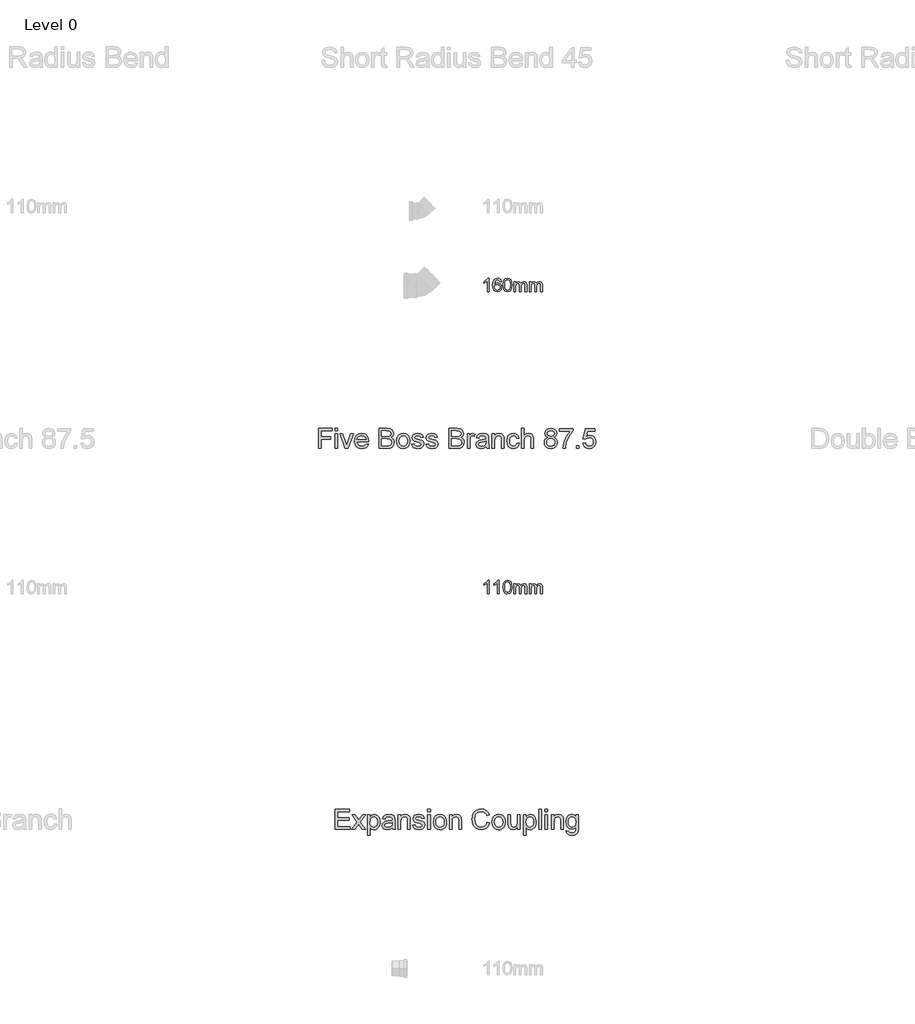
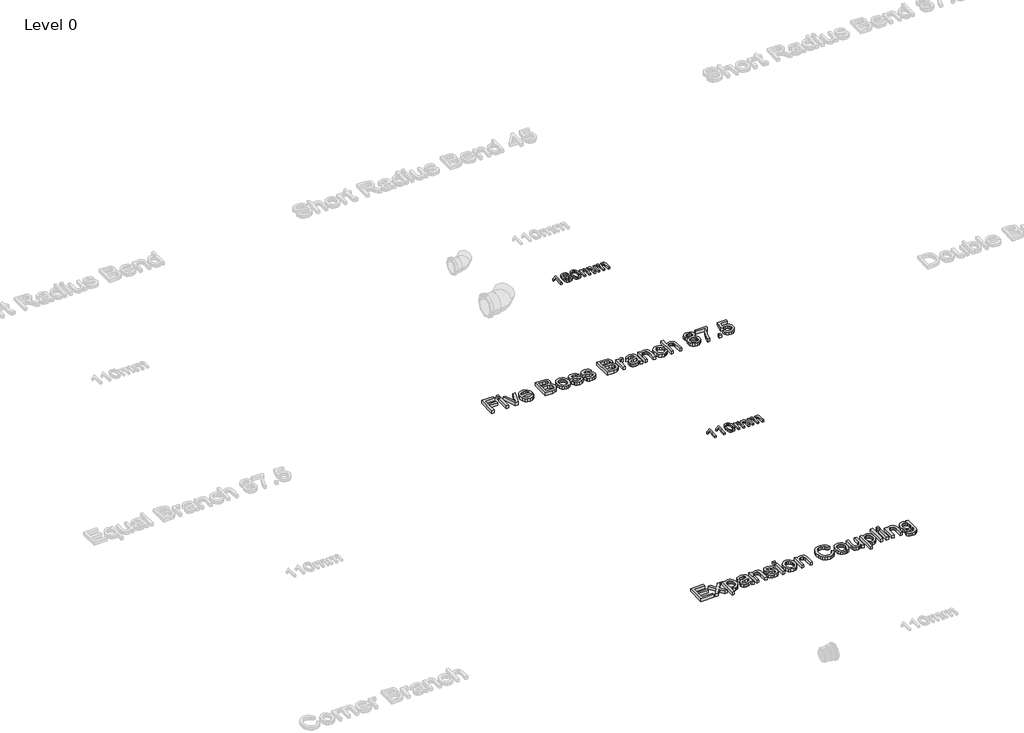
# One storey, part 9 of 15: 4 proxies.
"""IFC4 building model written with IfcOpenShell, lengths in millimetres."""

from ifc_helpers import new_model, si_unit, origin, origin_with_axes, place, context, project, spatial, polyline, outline, extrude, element, save

model = new_model("IFC4")

# Units and contexts
model_context = context("Model", 3, world=origin())
ifc_project = project(units=[si_unit("LENGTHUNIT", "METRE", prefix="MILLI")], contexts=[model_context])

# Site, building, storey
site = spatial("IfcSite", under=ifc_project)
building = spatial("IfcBuilding", under=site)
storey = spatial("IfcBuildingStorey", under=building, Name="Level 0", Elevation=0.0)

# Proxies
placement = place(None, origin())
element("IfcBuildingElementProxy", 1, Name="100mm Arial", ObjectType="100mm Arial", at=placement, inside=storey, context=model_context, shape_type="SweptSolid", body=[
    extrude(outline(polyline([(-6791.7293188, 5437.7167304), (-6804.0370111, 5437.7167304), (-6804.0370111, 5514.4474996), (-6815.6956649, 5506.1422111), (-6828.6523957, 5499.9282688), (-6828.6523957, 5511.5628842), (-6810.6115303, 5523.0773073), (-6799.6620111, 5536.1782688), (-6791.7293188, 5536.1782688), (-6791.7293188, 5437.7167304)])), origin_with_axes(), (0.0, 0.0, 1.0), 15.0),
    extrude(outline(polyline([(-6716.3447034, 5437.7167304), (-6728.6523957, 5437.7167304), (-6728.6523957, 5514.4474996), (-6740.3110495, 5506.1422111), (-6753.2677803, 5499.9282688), (-6753.2677803, 5511.5628842), (-6735.2269149, 5523.0773073), (-6724.2773957, 5536.1782688), (-6716.3447034, 5536.1782688), (-6716.3447034, 5437.7167304)])), origin_with_axes(), (0.0, 0.0, 1.0), 15.0),
    extrude(outline(polyline([(-6687.1139341, 5486.1542304), (-6683.4961457, 5514.4835573), (-6672.7509534, 5530.8176919), (-6654.8062418, 5536.1782688), (-6640.4312418, 5533.0051919), (-6630.5033572, 5523.8585573), (-6624.7341264, 5509.2912496), (-6622.4985495, 5486.1542304), (-6626.0802803, 5457.9450958), (-6636.7894149, 5441.5749035), (-6654.8062418, 5436.1782688), (-6667.5947034, 5438.5220188), (-6677.3062418, 5445.5532688), (-6684.6620111, 5462.2059131), (-6687.1139341, 5486.1542304)]), holes=[polyline([(-6674.8062418, 5486.1782688), (-6673.3639341, 5466.8182929), (-6669.0370111, 5455.613365), (-6662.5947034, 5450.2678121), (-6654.8062418, 5448.4859611), (-6647.0177803, 5450.2738217), (-6640.5754726, 5455.6374035), (-6636.2485495, 5466.848341), (-6634.8062418, 5486.1782688), (-6636.2004726, 5505.1025477), (-6640.3831649, 5516.394615), (-6646.8134534, 5522.0015861), (-6654.9504726, 5523.8705765), (-6662.6547995, 5522.2239419), (-6668.8447034, 5517.2840381), (-6673.3158572, 5505.2888458), (-6674.8062418, 5486.1782688)])]), origin_with_axes(), (0.0, 0.0, 1.0), 15.0),
    extrude(outline(polyline([(-6608.6523957, 5437.7167304), (-6608.6523957, 5510.0244227), (-6596.3447034, 5510.0244227), (-6596.3447034, 5498.1253842), (-6587.8831649, 5507.8729804), (-6575.8398957, 5511.5628842), (-6563.5081649, 5507.800865), (-6556.7293188, 5497.2599996), (-6547.1259534, 5507.9871631), (-6534.9985495, 5511.5628842), (-6525.7467466, 5510.0755044), (-6518.9047995, 5505.613365), (-6514.6770351, 5498.0562736), (-6513.2677803, 5487.2840381), (-6513.2677803, 5437.7167304), (-6525.5754726, 5437.7167304), (-6525.5754726, 5481.9955765), (-6526.7172995, 5492.2720188), (-6530.8519149, 5497.332115), (-6537.8831649, 5499.2551919), (-6549.9865303, 5494.3273073), (-6554.8062418, 5478.5340381), (-6554.8062418, 5437.7167304), (-6567.1139341, 5437.7167304), (-6567.1139341, 5483.3657688), (-6569.9624918, 5495.2888458), (-6579.3014341, 5499.2551919), (-6588.4120111, 5496.6109611), (-6594.4697034, 5488.8705765), (-6596.3447034, 5474.1830765), (-6596.3447034, 5437.7167304), (-6608.6523957, 5437.7167304)])), origin_with_axes(), (0.0, 0.0, 1.0), 15.0),
    extrude(outline(polyline([(-6494.8062418, 5437.7167304), (-6494.8062418, 5510.0244227), (-6482.4985495, 5510.0244227), (-6482.4985495, 5498.1253842), (-6474.0370111, 5507.8729804), (-6461.9937418, 5511.5628842), (-6449.6620111, 5507.800865), (-6442.8831649, 5497.2599996), (-6433.2797995, 5507.9871631), (-6421.1523957, 5511.5628842), (-6411.9005928, 5510.0755044), (-6405.0586457, 5505.613365), (-6400.8308813, 5498.0562736), (-6399.4216264, 5487.2840381), (-6399.4216264, 5437.7167304), (-6411.7293188, 5437.7167304), (-6411.7293188, 5481.9955765), (-6412.8711457, 5492.2720188), (-6417.0057611, 5497.332115), (-6424.0370111, 5499.2551919), (-6436.1403764, 5494.3273073), (-6440.960088, 5478.5340381), (-6440.960088, 5437.7167304), (-6453.2677803, 5437.7167304), (-6453.2677803, 5483.3657688), (-6456.116338, 5495.2888458), (-6465.4552803, 5499.2551919), (-6474.5658572, 5496.6109611), (-6480.6235495, 5488.8705765), (-6482.4985495, 5474.1830765), (-6482.4985495, 5437.7167304), (-6494.8062418, 5437.7167304)])), origin_with_axes(), (0.0, 0.0, 1.0), 15.0),
])
element("IfcBuildingElementProxy", 2, Name="100mm Arial", ObjectType="100mm Arial", at=placement, inside=storey, context=model_context, shape_type="SweptSolid", body=[
    extrude(outline(polyline([(-6791.7293188, 7657.7167304), (-6804.0370111, 7657.7167304), (-6804.0370111, 7734.4474996), (-6815.6956649, 7726.1422111), (-6828.6523957, 7719.9282688), (-6828.6523957, 7731.5628842), (-6810.6115303, 7743.0773073), (-6799.6620111, 7756.1782688), (-6791.7293188, 7756.1782688), (-6791.7293188, 7657.7167304)])), origin_with_axes(), (0.0, 0.0, 1.0), 15.0),
    extrude(outline(polyline([(-6699.4216264, 7730.0244227), (-6711.7293188, 7728.4859611), (-6716.3927803, 7738.7503842), (-6728.7245111, 7743.8705765), (-6739.8302803, 7740.8898073), (-6748.2317226, 7729.6999035), (-6751.7293188, 7707.7648073), (-6740.8759534, 7717.5845188), (-6727.4264341, 7720.7936535), (-6716.0562418, 7718.6001438), (-6706.5129726, 7712.019615), (-6700.0406168, 7701.9655285), (-6697.8831649, 7689.3513458), (-6701.9456649, 7672.3681727), (-6713.1235495, 7660.3489419), (-6729.2533572, 7656.1782688), (-6743.2166986, 7658.9426919), (-6754.3374918, 7667.2359611), (-6761.6121313, 7681.8753842), (-6764.0370111, 7703.6782688), (-6761.3447034, 7728.19149), (-6753.2677803, 7744.9523073), (-6742.2401361, 7753.3717785), (-6727.9552803, 7756.1782688), (-6717.1560014, 7754.44149), (-6708.5081649, 7749.2311535), (-6702.4504726, 7740.9559131), (-6699.4216264, 7730.0244227)]), holes=[polyline([(-6751.7293188, 7689.5436535), (-6748.8807611, 7678.8825958), (-6741.3086457, 7671.1422111), (-6730.2148957, 7668.4859611), (-6722.0929005, 7669.8621631), (-6715.7076841, 7673.9907688), (-6711.5700639, 7680.4811535), (-6710.1908572, 7688.9426919), (-6711.5520351, 7697.0646871), (-6715.6355688, 7703.2575958), (-6730.7197034, 7708.4859611), (-6745.6115303, 7703.2575958), (-6750.1998716, 7697.2149275), (-6751.7293188, 7689.5436535)])]), origin_with_axes(), (0.0, 0.0, 1.0), 15.0),
    extrude(outline(polyline([(-6687.1139341, 7706.1542304), (-6683.4961457, 7734.4835573), (-6672.7509534, 7750.8176919), (-6654.8062418, 7756.1782688), (-6640.4312418, 7753.0051919), (-6630.5033572, 7743.8585573), (-6624.7341264, 7729.2912496), (-6622.4985495, 7706.1542304), (-6626.0802803, 7677.9450958), (-6636.7894149, 7661.5749035), (-6654.8062418, 7656.1782688), (-6667.5947034, 7658.5220188), (-6677.3062418, 7665.5532688), (-6684.6620111, 7682.2059131), (-6687.1139341, 7706.1542304)]), holes=[polyline([(-6674.8062418, 7706.1782688), (-6673.3639341, 7686.8182929), (-6669.0370111, 7675.613365), (-6662.5947034, 7670.2678121), (-6654.8062418, 7668.4859611), (-6647.0177803, 7670.2738217), (-6640.5754726, 7675.6374035), (-6636.2485495, 7686.848341), (-6634.8062418, 7706.1782688), (-6636.2004726, 7725.1025477), (-6640.3831649, 7736.394615), (-6646.8134534, 7742.0015861), (-6654.9504726, 7743.8705765), (-6662.6547995, 7742.2239419), (-6668.8447034, 7737.2840381), (-6673.3158572, 7725.2888458), (-6674.8062418, 7706.1782688)])]), origin_with_axes(), (0.0, 0.0, 1.0), 15.0),
    extrude(outline(polyline([(-6608.6523957, 7657.7167304), (-6608.6523957, 7730.0244227), (-6596.3447034, 7730.0244227), (-6596.3447034, 7718.1253842), (-6587.8831649, 7727.8729804), (-6575.8398957, 7731.5628842), (-6563.5081649, 7727.800865), (-6556.7293188, 7717.2599996), (-6547.1259534, 7727.9871631), (-6534.9985495, 7731.5628842), (-6525.7467466, 7730.0755044), (-6518.9047995, 7725.613365), (-6514.6770351, 7718.0562736), (-6513.2677803, 7707.2840381), (-6513.2677803, 7657.7167304), (-6525.5754726, 7657.7167304), (-6525.5754726, 7701.9955765), (-6526.7172995, 7712.2720188), (-6530.8519149, 7717.332115), (-6537.8831649, 7719.2551919), (-6549.9865303, 7714.3273073), (-6554.8062418, 7698.5340381), (-6554.8062418, 7657.7167304), (-6567.1139341, 7657.7167304), (-6567.1139341, 7703.3657688), (-6569.9624918, 7715.2888458), (-6579.3014341, 7719.2551919), (-6588.4120111, 7716.6109611), (-6594.4697034, 7708.8705765), (-6596.3447034, 7694.1830765), (-6596.3447034, 7657.7167304), (-6608.6523957, 7657.7167304)])), origin_with_axes(), (0.0, 0.0, 1.0), 15.0),
    extrude(outline(polyline([(-6494.8062418, 7657.7167304), (-6494.8062418, 7730.0244227), (-6482.4985495, 7730.0244227), (-6482.4985495, 7718.1253842), (-6474.0370111, 7727.8729804), (-6461.9937418, 7731.5628842), (-6449.6620111, 7727.800865), (-6442.8831649, 7717.2599996), (-6433.2797995, 7727.9871631), (-6421.1523957, 7731.5628842), (-6411.9005928, 7730.0755044), (-6405.0586457, 7725.613365), (-6400.8308813, 7718.0562736), (-6399.4216264, 7707.2840381), (-6399.4216264, 7657.7167304), (-6411.7293188, 7657.7167304), (-6411.7293188, 7701.9955765), (-6412.8711457, 7712.2720188), (-6417.0057611, 7717.332115), (-6424.0370111, 7719.2551919), (-6436.1403764, 7714.3273073), (-6440.960088, 7698.5340381), (-6440.960088, 7657.7167304), (-6453.2677803, 7657.7167304), (-6453.2677803, 7703.3657688), (-6456.116338, 7715.2888458), (-6465.4552803, 7719.2551919), (-6474.5658572, 7716.6109611), (-6480.6235495, 7708.8705765), (-6482.4985495, 7694.1830765), (-6482.4985495, 7657.7167304), (-6494.8062418, 7657.7167304)])), origin_with_axes(), (0.0, 0.0, 1.0), 15.0),
])
element("IfcBuildingElementProxy", 3, Name="150mm Arial", ObjectType="150mm Arial", at=placement, inside=storey, context=model_context, shape_type="SweptSolid", body=[
    extrude(outline(polyline([(-8044.4510666, 6505.2145219), (-8044.4510666, 6652.9068296), (-7945.2202973, 6652.9068296), (-7945.2202973, 6634.4452911), (-8025.9895281, 6634.4452911), (-8025.9895281, 6590.5991373), (-7956.7587589, 6590.5991373), (-7956.7587589, 6572.1375988), (-8025.9895281, 6572.1375988), (-8025.9895281, 6505.2145219), (-8044.4510666, 6505.2145219)])), origin_with_axes(), (0.0, 0.0, 1.0), 25.0),
    extrude(outline(polyline([(-7922.1433743, 6505.2145219), (-7922.1433743, 6613.6760604), (-7903.6818358, 6613.6760604), (-7903.6818358, 6505.2145219), (-7922.1433743, 6505.2145219)])), origin_with_axes(), (0.0, 0.0, 1.0), 25.0),
    extrude(outline(polyline([(-7922.1433743, 6634.4452911), (-7922.1433743, 6652.9068296), (-7903.6818358, 6652.9068296), (-7903.6818358, 6634.4452911), (-7922.1433743, 6634.4452911)])), origin_with_axes(), (0.0, 0.0, 1.0), 25.0),
    extrude(outline(polyline([(-7849.3789512, 6505.2145219), (-7887.5279897, 6613.6760604), (-7867.9847204, 6613.6760604), (-7844.8717397, 6548.7000988), (-7837.912605, 6526.8491373), (-7831.0977012, 6547.4741373), (-7807.8404897, 6613.6760604), (-7788.2972204, 6613.6760604), (-7825.9775089, 6505.2145219), (-7849.3789512, 6505.2145219)])), origin_with_axes(), (0.0, 0.0, 1.0), 25.0),
    extrude(outline(polyline([(-7696.2058743, 6537.5222142), (-7678.1049127, 6535.2145219), (-7684.6268478, 6521.5756998), (-7695.0339993, 6511.3803873), (-7709.0919921, 6505.025219), (-7726.5664512, 6502.9068296), (-7748.2281098, 6506.5621782), (-7764.8957781, 6517.5282238), (-7775.5237829, 6535.0928272), (-7779.0664512, 6558.5438488), (-7775.4877252, 6582.7836325), (-7764.7515473, 6600.9116373), (-7748.3092397, 6612.2157238), (-7727.6121243, 6615.9837527), (-7707.5595401, 6612.2247383), (-7691.5364031, 6600.947695), (-7681.030093, 6582.8557479), (-7677.5279897, 6558.6520219), (-7677.6361627, 6553.6760604), (-7760.6049127, 6553.6760604), (-7757.4092997, 6539.8569498), (-7749.9859223, 6529.697695), (-7739.2722805, 6523.4506998), (-7726.2058743, 6521.3683681), (-7708.1049127, 6525.2265411), (-7696.2058743, 6537.5222142)]), holes=[polyline([(-7760.6049127, 6572.1375988), (-7695.9895281, 6572.1375988), (-7698.4865233, 6581.8912046), (-7703.381355, 6588.8683681), (-7714.1445762, 6595.3587527), (-7727.6842397, 6597.5222142), (-7740.1286507, 6595.7959522), (-7750.4186147, 6590.6171661), (-7757.5715594, 6582.5447503), (-7760.6049127, 6572.1375988)])]), origin_with_axes(), (0.0, 0.0, 1.0), 25.0),
    extrude(outline(polyline([(-7599.0664512, 6505.2145219), (-7599.0664512, 6652.9068296), (-7542.7082781, 6652.9068296), (-7515.1061147, 6648.5618777), (-7505.8302733, 6643.049558), (-7498.8080377, 6635.2025027), (-7492.912605, 6616.3082719), (-7497.8705377, 6599.0546661), (-7512.8525089, 6585.9837527), (-7502.3912709, 6580.5210123), (-7494.6614031, 6572.2097142), (-7489.8882661, 6561.5997383), (-7488.2972204, 6549.2409642), (-7492.6421723, 6529.3912046), (-7503.4053935, 6515.2565892), (-7519.4690954, 6507.7565892), (-7543.1409704, 6505.2145219), (-7599.0664512, 6505.2145219)]), holes=[polyline([(-7580.6049127, 6523.6760604), (-7542.7443358, 6523.6760604), (-7529.0424127, 6524.3972142), (-7517.4498647, 6528.4176469), (-7509.7695762, 6536.6207719), (-7506.7587589, 6549.0606758), (-7510.2924127, 6563.4116373), (-7521.74073, 6571.9753392), (-7544.5472204, 6574.4452911), (-7580.6049127, 6574.4452911), (-7580.6049127, 6523.6760604)]), polyline([(-7580.6049127, 6592.9068296), (-7546.8909704, 6592.9068296), (-7527.2034704, 6594.4933681), (-7515.3585185, 6601.3263008), (-7511.3741435, 6613.3515411), (-7515.0880858, 6625.3948104), (-7525.725105, 6632.5162046), (-7549.4510666, 6634.4452911), (-7580.6049127, 6634.4452911), (-7580.6049127, 6592.9068296)])]), origin_with_axes(), (0.0, 0.0, 1.0), 25.0),
    extrude(outline(polyline([(-7469.835682, 6559.4452911), (-7465.8422925, 6585.5961325), (-7453.8621243, 6603.9765411), (-7439.0604416, 6612.9819498), (-7421.3380858, 6615.9837527), (-7401.9435546, 6612.3284041), (-7386.4522685, 6601.3623585), (-7376.2975209, 6583.9510003), (-7372.912605, 6560.9597142), (-7374.4089993, 6542.3088729), (-7378.898182, 6528.1111565), (-7386.249444, 6517.4786445), (-7396.3320762, 6509.5234161), (-7408.3077372, 6504.5609762), (-7421.3380858, 6502.9068296), (-7440.9669921, 6506.5486565), (-7456.4402493, 6517.4741373), (-7466.4868238, 6535.2505796), (-7469.835682, 6559.4452911)]), holes=[polyline([(-7451.3741435, 6559.4813488), (-7449.2377252, 6542.7731157), (-7442.8284704, 6530.86957), (-7433.1830377, 6523.7436686), (-7421.3380858, 6521.3683681), (-7409.5472204, 6523.7571902), (-7399.9198166, 6530.9236565), (-7393.5105618, 6542.9849546), (-7391.3741435, 6560.0582719), (-7393.5240834, 6576.2797262), (-7399.9739031, 6588.0210123), (-7409.6148286, 6595.1469137), (-7421.3380858, 6597.5222142), (-7433.1830377, 6595.1559282), (-7442.8284704, 6588.05707), (-7449.2377252, 6576.1805676), (-7451.3741435, 6559.4813488)])]), origin_with_axes(), (0.0, 0.0, 1.0), 25.0),
    extrude(outline(polyline([(-7359.0664512, 6537.5222142), (-7340.6049127, 6539.8299065), (-7337.6932541, 6531.9332719), (-7332.0592397, 6526.1279835), (-7312.4799127, 6521.3683681), (-7293.6577973, 6525.7313488), (-7287.5279897, 6535.9717335), (-7293.693855, 6544.2650027), (-7312.6962589, 6549.5294258), (-7340.4967397, 6558.5618777), (-7352.6301531, 6569.1087527), (-7356.7587589, 6584.0005796), (-7353.4414512, 6597.7565892), (-7344.3909704, 6608.2674065), (-7332.6541916, 6613.7301469), (-7316.7707781, 6615.9837527), (-7294.3068358, 6612.3599546), (-7280.0279897, 6602.5522623), (-7273.6818358, 6585.9837527), (-7292.1433743, 6583.6760604), (-7299.08448, 6593.8623585), (-7315.3284704, 6597.5222142), (-7332.9967397, 6594.0246181), (-7338.2972204, 6585.8755796), (-7336.0977012, 6580.5029835), (-7329.210682, 6576.4284642), (-7313.3092397, 6572.4981758), (-7286.2118839, 6563.8082719), (-7273.6277493, 6553.9645219), (-7269.0664512, 6537.9188488), (-7274.4210185, 6520.2505796), (-7289.8717397, 6507.43207), (-7312.7323166, 6502.9068296), (-7331.3471002, 6505.08832), (-7344.9318358, 6511.6327911), (-7354.0003454, 6522.4681277), (-7359.0664512, 6537.5222142)])), origin_with_axes(), (0.0, 0.0, 1.0), 25.0),
    extrude(outline(polyline([(-7255.2202973, 6537.5222142), (-7236.7587589, 6539.8299065), (-7233.8471002, 6531.9332719), (-7228.2130858, 6526.1279835), (-7208.6337589, 6521.3683681), (-7189.8116435, 6525.7313488), (-7183.6818358, 6535.9717335), (-7189.8477012, 6544.2650027), (-7208.850105, 6549.5294258), (-7236.6505858, 6558.5618777), (-7248.7839993, 6569.1087527), (-7252.912605, 6584.0005796), (-7249.5952973, 6597.7565892), (-7240.5448166, 6608.2674065), (-7228.8080377, 6613.7301469), (-7212.9246243, 6615.9837527), (-7190.460682, 6612.3599546), (-7176.1818358, 6602.5522623), (-7169.835682, 6585.9837527), (-7188.2972204, 6583.6760604), (-7195.2383262, 6593.8623585), (-7211.4823166, 6597.5222142), (-7229.1505858, 6594.0246181), (-7234.4510666, 6585.8755796), (-7232.2515473, 6580.5029835), (-7225.3645281, 6576.4284642), (-7209.4630858, 6572.4981758), (-7182.36573, 6563.8082719), (-7169.7815954, 6553.9645219), (-7165.2202973, 6537.9188488), (-7170.5748647, 6520.2505796), (-7186.0255858, 6507.43207), (-7208.8861627, 6502.9068296), (-7227.5009464, 6505.08832), (-7241.085682, 6511.6327911), (-7250.1541916, 6522.4681277), (-7255.2202973, 6537.5222142)])), origin_with_axes(), (0.0, 0.0, 1.0), 25.0),
    extrude(outline(polyline([(-7084.4510666, 6505.2145219), (-7084.4510666, 6652.9068296), (-7028.0928935, 6652.9068296), (-7000.49073, 6648.5618777), (-6991.2148887, 6643.049558), (-6984.1926531, 6635.2025027), (-6978.2972204, 6616.3082719), (-6983.2551531, 6599.0546661), (-6998.2371243, 6585.9837527), (-6987.7758863, 6580.5210123), (-6980.0460185, 6572.2097142), (-6975.2728815, 6561.5997383), (-6973.6818358, 6549.2409642), (-6978.0267877, 6529.3912046), (-6988.7900089, 6515.2565892), (-7004.8537108, 6507.7565892), (-7028.5255858, 6505.2145219), (-7084.4510666, 6505.2145219)]), holes=[polyline([(-7065.9895281, 6523.6760604), (-7028.1289512, 6523.6760604), (-7014.4270281, 6524.3972142), (-7002.83448, 6528.4176469), (-6995.1541916, 6536.6207719), (-6992.1433743, 6549.0606758), (-6995.6770281, 6563.4116373), (-7007.1253454, 6571.9753392), (-7029.9318358, 6574.4452911), (-7065.9895281, 6574.4452911), (-7065.9895281, 6523.6760604)]), polyline([(-7065.9895281, 6592.9068296), (-7032.2755858, 6592.9068296), (-7012.5880858, 6594.4933681), (-7000.7431339, 6601.3263008), (-6996.7587589, 6613.3515411), (-7000.4727012, 6625.3948104), (-7011.1097204, 6632.5162046), (-7034.835682, 6634.4452911), (-7065.9895281, 6634.4452911), (-7065.9895281, 6592.9068296)])]), origin_with_axes(), (0.0, 0.0, 1.0), 25.0),
    extrude(outline(polyline([(-6950.6049127, 6505.2145219), (-6950.6049127, 6613.6760604), (-6934.4510666, 6613.6760604), (-6934.4510666, 6597.6303873), (-6922.9847204, 6612.4140411), (-6911.4462589, 6615.9837527), (-6892.912605, 6610.2866373), (-6899.0784704, 6593.7361565), (-6912.0592397, 6597.5222142), (-6922.4979416, 6593.8803873), (-6929.1505858, 6583.7842335), (-6932.1433743, 6562.2217335), (-6932.1433743, 6505.2145219), (-6950.6049127, 6505.2145219)])), origin_with_axes(), (0.0, 0.0, 1.0), 25.0),
    extrude(outline(polyline([(-6812.1433743, 6519.0606758), (-6830.0460185, 6506.5486565), (-6849.8236627, 6502.9068296), (-6865.2518478, 6505.0973344), (-6876.632557, 6511.6688488), (-6883.6502853, 6521.6478152), (-6885.9895281, 6534.0606758), (-6882.4558743, 6548.6640411), (-6873.1710185, 6559.2650027), (-6860.2443358, 6565.322695), (-6844.2707781, 6568.0991373), (-6812.2515473, 6574.4452911), (-6812.1433743, 6578.5558681), (-6813.4144079, 6586.7950508), (-6817.2275089, 6592.1856758), (-6825.7551531, 6596.1880796), (-6837.6361627, 6597.5222142), (-6856.3140473, 6593.9705315), (-6865.2202973, 6581.3683681), (-6883.6818358, 6583.6760604), (-6875.695057, 6601.7049065), (-6859.6133262, 6612.2698104), (-6835.256355, 6615.9837527), (-6812.882557, 6612.7025027), (-6800.2443358, 6604.46332), (-6794.5832781, 6591.9332719), (-6793.6818358, 6575.7794258), (-6793.6818358, 6552.8106758), (-6792.7443358, 6520.7373585), (-6789.0664512, 6505.2145219), (-6807.5279897, 6505.2145219), (-6812.1433743, 6519.0606758)]), holes=[polyline([(-6812.1433743, 6555.9837527), (-6841.9270281, 6550.322695), (-6857.8104416, 6547.3299065), (-6865.0039512, 6542.4621181), (-6867.5279897, 6535.3587527), (-6862.0291916, 6525.3707719), (-6845.8933743, 6521.3683681), (-6827.2154897, 6525.7854354), (-6815.1722204, 6536.4765411), (-6812.2515473, 6550.7553873), (-6812.1433743, 6555.9837527)])]), origin_with_axes(), (0.0, 0.0, 1.0), 25.0),
    extrude(outline(polyline([(-6768.2972204, 6505.2145219), (-6768.2972204, 6613.6760604), (-6749.835682, 6613.6760604), (-6749.835682, 6598.5318296), (-6735.7190954, 6611.6207719), (-6716.4462589, 6615.9837527), (-6699.0123647, 6612.4681277), (-6687.1133262, 6603.2373585), (-6681.5784704, 6589.6616373), (-6680.6049127, 6571.8130796), (-6680.6049127, 6505.2145219), (-6699.0664512, 6505.2145219), (-6699.0664512, 6569.3250988), (-6701.193855, 6585.6592335), (-6708.7118839, 6594.2950508), (-6721.3861627, 6597.5222142), (-6732.1989632, 6595.7103152), (-6741.4162108, 6590.2746181), (-6747.7308142, 6579.7728152), (-6749.835682, 6562.7625988), (-6749.835682, 6505.2145219), (-6768.2972204, 6505.2145219)])), origin_with_axes(), (0.0, 0.0, 1.0), 25.0),
    extrude(outline(polyline([(-6585.9895281, 6544.4452911), (-6567.5279897, 6542.1375988), (-6572.6752252, 6525.7178272), (-6582.3477012, 6513.3094738), (-6595.6349608, 6505.5074907), (-6611.6265473, 6502.9068296), (-6631.264468, 6506.5351349), (-6646.6205377, 6517.4200508), (-6656.5318959, 6535.0838128), (-6659.835682, 6559.0486565), (-6654.1926531, 6589.7157238), (-6647.0712589, 6601.2136205), (-6636.9931339, 6609.4212527), (-6624.936343, 6614.3431277), (-6611.8789512, 6615.9837527), (-6596.2794921, 6613.7301469), (-6583.8080377, 6606.9693296), (-6574.8612228, 6596.0618777), (-6569.835682, 6581.3683681), (-6588.2972204, 6579.0606758), (-6596.8609223, 6592.8888008), (-6611.7347204, 6597.5222142), (-6623.6653094, 6595.2415652), (-6633.1349608, 6588.3996181), (-6639.3143478, 6576.6267815), (-6641.3741435, 6559.5534642), (-6639.3594199, 6542.2502791), (-6633.3152493, 6530.4368777), (-6624.0168719, 6523.6354955), (-6612.2395281, 6521.3683681), (-6602.6797324, 6522.7836325), (-6594.8416916, 6527.0294258), (-6589.140069, 6534.213921), (-6585.9895281, 6544.4452911)])), origin_with_axes(), (0.0, 0.0, 1.0), 25.0),
    extrude(outline(polyline([(-6551.3741435, 6505.2145219), (-6551.3741435, 6652.9068296), (-6532.912605, 6652.9068296), (-6532.912605, 6598.603945), (-6518.5165714, 6611.6388008), (-6500.7852012, 6615.9837527), (-6480.0520281, 6611.2421661), (-6467.4678935, 6598.135195), (-6463.6818358, 6573.8683681), (-6463.6818358, 6505.2145219), (-6482.1433743, 6505.2145219), (-6482.1433743, 6571.9573104), (-6483.6127252, 6583.5138008), (-6488.0207781, 6591.4284642), (-6495.1241435, 6595.9987767), (-6504.679432, 6597.5222142), (-6519.8056339, 6593.4116373), (-6529.9017877, 6582.2698104), (-6532.912605, 6562.8347142), (-6532.912605, 6505.2145219), (-6551.3741435, 6505.2145219)])), origin_with_axes(), (0.0, 0.0, 1.0), 25.0),
    extrude(outline(polyline([(-6358.3212589, 6586.5606758), (-6375.1421723, 6598.0270219), (-6380.6049127, 6615.8755796), (-6377.6301531, 6630.307671), (-6368.7058743, 6642.2337527), (-6354.8326772, 6650.2385604), (-6337.0111627, 6652.9068296), (-6319.0814752, 6650.1754594), (-6305.0279897, 6641.9813488), (-6295.9414512, 6629.8659642), (-6292.912605, 6615.3707719), (-6298.30323, 6597.9729354), (-6314.6553935, 6586.5606758), (-6303.2927132, 6580.705808), (-6295.02198, 6572.0835123), (-6289.9784103, 6561.1084522), (-6288.2972204, 6548.1952911), (-6291.632557, 6530.5450508), (-6301.6385666, 6515.9597142), (-6317.0892877, 6506.1700508), (-6336.7587589, 6502.9068296), (-6356.42823, 6506.1835724), (-6371.8789512, 6516.0138008), (-6381.8849608, 6530.7388609), (-6385.2202973, 6548.7000988), (-6383.4714993, 6562.1135604), (-6378.225105, 6573.1472142), (-6369.7515473, 6581.4224546), (-6358.3212589, 6586.5606758)]), holes=[polyline([(-6366.7587589, 6549.3491373), (-6363.6758262, 6535.4488969), (-6352.7683743, 6525.0462527), (-6336.6145281, 6521.3683681), (-6324.0484223, 6523.3019618), (-6314.6193358, 6529.1027431), (-6308.7239031, 6537.8872984), (-6306.7587589, 6548.7722142), (-6308.7870041, 6559.8419258), (-6314.8717397, 6568.8202911), (-6324.5171723, 6574.7698104), (-6337.2275089, 6576.7529835), (-6349.6178334, 6574.7968536), (-6358.9522685, 6568.9284642), (-6364.8071363, 6560.1213729), (-6366.7587589, 6549.3491373)]), polyline([(-6362.1433743, 6615.3347142), (-6360.5072565, 6607.27582), (-6355.5989031, 6600.8395219), (-6347.5625449, 6596.6207719), (-6336.5424127, 6595.2145219), (-6325.7791916, 6596.6117575), (-6317.8645281, 6600.8034642), (-6312.9967397, 6607.0234161), (-6311.3741435, 6614.5053873), (-6313.0508262, 6622.2713128), (-6318.0808743, 6628.6940892), (-6326.1037108, 6633.0074907), (-6336.7587589, 6634.4452911), (-6347.4814151, 6633.0390411), (-6355.49073, 6628.8202911), (-6360.4802132, 6622.6363969), (-6362.1433743, 6615.3347142)])]), origin_with_axes(), (0.0, 0.0, 1.0), 25.0),
    extrude(outline(polyline([(-6272.1433743, 6632.1375988), (-6272.1433743, 6650.5991373), (-6175.2202973, 6650.5991373), (-6175.2202973, 6635.6712527), (-6202.7142877, 6595.9537046), (-6223.7539512, 6545.3467335), (-6230.6049127, 6505.2145219), (-6249.0664512, 6505.2145219), (-6241.7287108, 6546.8611565), (-6221.5904897, 6593.9344738), (-6193.6818358, 6632.1375988), (-6272.1433743, 6632.1375988)])), origin_with_axes(), (0.0, 0.0, 1.0), 25.0),
    extrude(outline(polyline([(-6149.835682, 6505.2145219), (-6149.835682, 6523.6760604), (-6131.3741435, 6523.6760604), (-6131.3741435, 6505.2145219), (-6149.835682, 6505.2145219)])), origin_with_axes(), (0.0, 0.0, 1.0), 25.0),
    extrude(outline(polyline([(-6101.3741435, 6544.4452911), (-6082.912605, 6546.7529835), (-6079.523182, 6535.6697503), (-6073.6097204, 6527.7325508), (-6065.1992637, 6522.9594137), (-6054.318855, 6521.3683681), (-6041.085682, 6523.5814089), (-6031.1698166, 6530.2205315), (-6024.9769079, 6540.5195099), (-6022.912605, 6553.7121181), (-6024.8461988, 6566.1339931), (-6030.64698, 6575.635195), (-6040.3600209, 6581.665844), (-6054.0303935, 6583.6760604), (-6070.2383262, 6580.4669258), (-6080.6049127, 6572.1375988), (-6099.0664512, 6574.4452911), (-6082.912605, 6650.5991373), (-6011.3741435, 6650.5991373), (-6011.3741435, 6632.1375988), (-6067.9847204, 6632.1375988), (-6075.881355, 6591.4645219), (-6062.6932541, 6599.4693296), (-6048.8741435, 6602.1375988), (-6031.6250449, 6598.8293056), (-6017.3056339, 6588.9044258), (-6007.6647084, 6573.7782238), (-6004.4510666, 6554.8659642), (-6007.3446964, 6536.4044258), (-6016.0255858, 6520.6111565), (-6032.648182, 6507.3329113), (-6054.3909704, 6502.9068296), (-6072.5234824, 6505.7508801), (-6086.9690954, 6514.2830315), (-6096.8714392, 6527.5116974), (-6101.3741435, 6544.4452911)])), origin_with_axes(), (0.0, 0.0, 1.0), 25.0),
])
element("IfcBuildingElementProxy", 4, Name="150mm Arial", ObjectType="150mm Arial", at=placement, inside=storey, context=model_context, shape_type="SweptSolid", body=[
    extrude(outline(polyline([(-7922.1433743, 3705.2145219), (-7922.1433743, 3852.9068296), (-7815.9895281, 3852.9068296), (-7815.9895281, 3834.4452911), (-7903.6818358, 3834.4452911), (-7903.6818358, 3790.5991373), (-7820.6049127, 3790.5991373), (-7820.6049127, 3772.1375988), (-7903.6818358, 3772.1375988), (-7903.6818358, 3723.6760604), (-7813.6818358, 3723.6760604), (-7813.6818358, 3705.2145219), (-7922.1433743, 3705.2145219)])), origin_with_axes(), (0.0, 0.0, 1.0), 25.0),
    extrude(outline(polyline([(-7799.835682, 3705.2145219), (-7760.3885666, 3759.7337527), (-7797.5279897, 3813.6760604), (-7775.3164512, 3813.6760604), (-7757.3957781, 3787.7145219), (-7749.0303935, 3775.4549065), (-7741.7827973, 3785.478945), (-7721.3741435, 3813.6760604), (-7699.162605, 3813.6760604), (-7738.1770281, 3759.7337527), (-7700.6049127, 3705.2145219), (-7722.8164512, 3705.2145219), (-7745.4246243, 3737.9909642), (-7749.5712589, 3743.9765411), (-7777.6241435, 3705.2145219), (-7799.835682, 3705.2145219)])), origin_with_axes(), (0.0, 0.0, 1.0), 25.0),
    extrude(outline(polyline([(-7684.4510666, 3663.6760604), (-7684.4510666, 3813.6760604), (-7665.9895281, 3813.6760604), (-7665.9895281, 3795.5750988), (-7653.225105, 3810.8815892), (-7635.9895281, 3815.9837527), (-7623.5045522, 3814.1988969), (-7612.5880858, 3808.8443296), (-7603.6998647, 3800.24457), (-7597.2996243, 3788.7241373), (-7592.1433743, 3760.2746181), (-7593.5992036, 3744.4858561), (-7597.9666916, 3730.3647623), (-7605.1061147, 3718.6279835), (-7614.8777493, 3709.9921661), (-7626.2584584, 3704.6781637), (-7638.225105, 3702.9068296), (-7654.288807, 3707.6484161), (-7665.9895281, 3719.6375988), (-7665.9895281, 3663.6760604), (-7684.4510666, 3663.6760604)]), holes=[polyline([(-7665.9895281, 3758.5799065), (-7663.9928334, 3742.0294258), (-7658.0027493, 3730.4549065), (-7649.1641074, 3723.6400027), (-7638.6217397, 3721.3683681), (-7627.9080978, 3723.7211325), (-7618.8440954, 3730.7794258), (-7612.6647084, 3742.7776229), (-7610.6049127, 3759.9500988), (-7612.6151291, 3776.4104354), (-7618.6457781, 3788.1472142), (-7627.4708983, 3795.1784642), (-7637.8645281, 3797.5222142), (-7648.2987228, 3795.0297262), (-7657.4618839, 3787.5522623), (-7663.8576171, 3775.3241974), (-7665.9895281, 3758.5799065)])]), origin_with_axes(), (0.0, 0.0, 1.0), 25.0),
    extrude(outline(polyline([(-7502.1433743, 3719.0606758), (-7520.0460185, 3706.5486565), (-7539.8236627, 3702.9068296), (-7555.2518478, 3705.0973344), (-7566.632557, 3711.6688488), (-7573.6502853, 3721.6478152), (-7575.9895281, 3734.0606758), (-7572.4558743, 3748.6640411), (-7563.1710185, 3759.2650027), (-7550.2443358, 3765.322695), (-7534.2707781, 3768.0991373), (-7502.2515473, 3774.4452911), (-7502.1433743, 3778.5558681), (-7503.4144079, 3786.7950508), (-7507.2275089, 3792.1856758), (-7515.7551531, 3796.1880796), (-7527.6361627, 3797.5222142), (-7546.3140473, 3793.9705315), (-7555.2202973, 3781.3683681), (-7573.6818358, 3783.6760604), (-7565.695057, 3801.7049065), (-7549.6133262, 3812.2698104), (-7525.256355, 3815.9837527), (-7502.882557, 3812.7025027), (-7490.2443358, 3804.46332), (-7484.5832781, 3791.9332719), (-7483.6818358, 3775.7794258), (-7483.6818358, 3752.8106758), (-7482.7443358, 3720.7373585), (-7479.0664512, 3705.2145219), (-7497.5279897, 3705.2145219), (-7502.1433743, 3719.0606758)]), holes=[polyline([(-7502.1433743, 3755.9837527), (-7531.9270281, 3750.322695), (-7547.8104416, 3747.3299065), (-7555.0039512, 3742.4621181), (-7557.5279897, 3735.3587527), (-7552.0291916, 3725.3707719), (-7535.8933743, 3721.3683681), (-7517.2154897, 3725.7854354), (-7505.1722204, 3736.4765411), (-7502.2515473, 3750.7553873), (-7502.1433743, 3755.9837527)])]), origin_with_axes(), (0.0, 0.0, 1.0), 25.0),
    extrude(outline(polyline([(-7458.2972204, 3705.2145219), (-7458.2972204, 3813.6760604), (-7439.835682, 3813.6760604), (-7439.835682, 3798.5318296), (-7425.7190954, 3811.6207719), (-7406.4462589, 3815.9837527), (-7389.0123647, 3812.4681277), (-7377.1133262, 3803.2373585), (-7371.5784704, 3789.6616373), (-7370.6049127, 3771.8130796), (-7370.6049127, 3705.2145219), (-7389.0664512, 3705.2145219), (-7389.0664512, 3769.3250988), (-7391.193855, 3785.6592335), (-7398.7118839, 3794.2950508), (-7411.3861627, 3797.5222142), (-7422.1989632, 3795.7103152), (-7431.4162108, 3790.2746181), (-7437.7308142, 3779.7728152), (-7439.835682, 3762.7625988), (-7439.835682, 3705.2145219), (-7458.2972204, 3705.2145219)])), origin_with_axes(), (0.0, 0.0, 1.0), 25.0),
    extrude(outline(polyline([(-7352.1433743, 3737.5222142), (-7333.6818358, 3739.8299065), (-7330.7701772, 3731.9332719), (-7325.1361627, 3726.1279835), (-7305.5568358, 3721.3683681), (-7286.7347204, 3725.7313488), (-7280.6049127, 3735.9717335), (-7286.7707781, 3744.2650027), (-7305.773182, 3749.5294258), (-7333.5736627, 3758.5618777), (-7345.7070762, 3769.1087527), (-7349.835682, 3784.0005796), (-7346.5183743, 3797.7565892), (-7337.4678935, 3808.2674065), (-7325.7311147, 3813.7301469), (-7309.8477012, 3815.9837527), (-7287.3837589, 3812.3599546), (-7273.1049127, 3802.5522623), (-7266.7587589, 3785.9837527), (-7285.2202973, 3783.6760604), (-7292.1614031, 3793.8623585), (-7308.4053935, 3797.5222142), (-7326.0736627, 3794.0246181), (-7331.3741435, 3785.8755796), (-7329.1746243, 3780.5029835), (-7322.287605, 3776.4284642), (-7306.3861627, 3772.4981758), (-7279.288807, 3763.8082719), (-7266.7046723, 3753.9645219), (-7262.1433743, 3737.9188488), (-7267.4979416, 3720.2505796), (-7282.9486627, 3707.43207), (-7305.8092397, 3702.9068296), (-7324.4240233, 3705.08832), (-7338.0087589, 3711.6327911), (-7347.0772685, 3722.4681277), (-7352.1433743, 3737.5222142)])), origin_with_axes(), (0.0, 0.0, 1.0), 25.0),
    extrude(outline(polyline([(-7241.3741435, 3705.2145219), (-7241.3741435, 3813.6760604), (-7222.912605, 3813.6760604), (-7222.912605, 3705.2145219), (-7241.3741435, 3705.2145219)])), origin_with_axes(), (0.0, 0.0, 1.0), 25.0),
    extrude(outline(polyline([(-7241.3741435, 3834.4452911), (-7241.3741435, 3852.9068296), (-7222.912605, 3852.9068296), (-7222.912605, 3834.4452911), (-7241.3741435, 3834.4452911)])), origin_with_axes(), (0.0, 0.0, 1.0), 25.0),
    extrude(outline(polyline([(-7199.835682, 3759.4452911), (-7195.8422925, 3785.5961325), (-7183.8621243, 3803.9765411), (-7169.0604416, 3812.9819498), (-7151.3380858, 3815.9837527), (-7131.9435546, 3812.3284041), (-7116.4522685, 3801.3623585), (-7106.2975209, 3783.9510003), (-7102.912605, 3760.9597142), (-7104.4089993, 3742.3088729), (-7108.898182, 3728.1111565), (-7116.249444, 3717.4786445), (-7126.3320762, 3709.5234161), (-7138.3077372, 3704.5609762), (-7151.3380858, 3702.9068296), (-7170.9669921, 3706.5486565), (-7186.4402493, 3717.4741373), (-7196.4868238, 3735.2505796), (-7199.835682, 3759.4452911)]), holes=[polyline([(-7181.3741435, 3759.4813488), (-7179.2377252, 3742.7731157), (-7172.8284704, 3730.86957), (-7163.1830377, 3723.7436686), (-7151.3380858, 3721.3683681), (-7139.5472204, 3723.7571902), (-7129.9198166, 3730.9236565), (-7123.5105618, 3742.9849546), (-7121.3741435, 3760.0582719), (-7123.5240834, 3776.2797262), (-7129.9739031, 3788.0210123), (-7139.6148286, 3795.1469137), (-7151.3380858, 3797.5222142), (-7163.1830377, 3795.1559282), (-7172.8284704, 3788.05707), (-7179.2377252, 3776.1805676), (-7181.3741435, 3759.4813488)])]), origin_with_axes(), (0.0, 0.0, 1.0), 25.0),
    extrude(outline(polyline([(-7082.1433743, 3705.2145219), (-7082.1433743, 3813.6760604), (-7063.6818358, 3813.6760604), (-7063.6818358, 3798.5318296), (-7049.5652493, 3811.6207719), (-7030.2924127, 3815.9837527), (-7012.8585185, 3812.4681277), (-7000.95948, 3803.2373585), (-6995.4246243, 3789.6616373), (-6994.4510666, 3771.8130796), (-6994.4510666, 3705.2145219), (-7012.912605, 3705.2145219), (-7012.912605, 3769.3250988), (-7015.0400089, 3785.6592335), (-7022.5580377, 3794.2950508), (-7035.2323166, 3797.5222142), (-7046.0451171, 3795.7103152), (-7055.2623647, 3790.2746181), (-7061.576968, 3779.7728152), (-7063.6818358, 3762.7625988), (-7063.6818358, 3705.2145219), (-7082.1433743, 3705.2145219)])), origin_with_axes(), (0.0, 0.0, 1.0), 25.0),
    extrude(outline(polyline([(-6805.2202973, 3757.7145219), (-6786.7587589, 3752.9549065), (-6795.2773887, 3731.4419859), (-6808.6457781, 3715.7253392), (-6826.2058743, 3706.111457), (-6847.2996243, 3702.9068296), (-6868.7133863, 3705.3317094), (-6885.7190954, 3712.6063488), (-6898.7539512, 3724.478344), (-6908.2551531, 3740.6952911), (-6914.0559344, 3759.760796), (-6915.9895281, 3780.1784642), (-6913.8035305, 3801.713921), (-6907.2455377, 3820.3106758), (-6896.6580978, 3835.3782839), (-6882.3837589, 3846.3263008), (-6865.4546723, 3852.9924666), (-6846.9029897, 3855.2145219), (-6826.6611026, 3852.338921), (-6809.9258262, 3843.7121181), (-6797.2199969, 3829.8659642), (-6789.0664512, 3811.3323104), (-6807.5279897, 3806.9332719), (-6813.92823, 3820.3963128), (-6822.6722204, 3829.6315892), (-6833.8681339, 3834.9726349), (-6847.6241435, 3836.7529835), (-6863.4805137, 3834.7788248), (-6876.506355, 3828.8563488), (-6886.3906699, 3819.6075508), (-6892.8224608, 3807.6544258), (-6897.5279897, 3780.2145219), (-6891.9570762, 3748.4116373), (-6884.835682, 3736.5351349), (-6874.6133262, 3728.0931277), (-6862.358218, 3723.049558), (-6849.1385666, 3721.3683681), (-6833.7284103, 3723.6580315), (-6820.8873647, 3730.5270219), (-6811.1923526, 3741.9032238), (-6805.2202973, 3757.7145219)])), origin_with_axes(), (0.0, 0.0, 1.0), 25.0),
    extrude(outline(polyline([(-6768.2972204, 3759.4452911), (-6764.303831, 3785.5961325), (-6752.3236627, 3803.9765411), (-6737.52198, 3812.9819498), (-6719.7996243, 3815.9837527), (-6700.405093, 3812.3284041), (-6684.913807, 3801.3623585), (-6674.7590594, 3783.9510003), (-6671.3741435, 3760.9597142), (-6672.8705377, 3742.3088729), (-6677.3597204, 3728.1111565), (-6684.7109824, 3717.4786445), (-6694.7936147, 3709.5234161), (-6706.7692757, 3704.5609762), (-6719.7996243, 3702.9068296), (-6739.4285305, 3706.5486565), (-6754.9017877, 3717.4741373), (-6764.9483622, 3735.2505796), (-6768.2972204, 3759.4452911)]), holes=[polyline([(-6749.835682, 3759.4813488), (-6747.6992637, 3742.7731157), (-6741.2900089, 3730.86957), (-6731.6445762, 3723.7436686), (-6719.7996243, 3721.3683681), (-6708.0087589, 3723.7571902), (-6698.381355, 3730.9236565), (-6691.9721002, 3742.9849546), (-6689.835682, 3760.0582719), (-6691.9856219, 3776.2797262), (-6698.4354416, 3788.0210123), (-6708.0763671, 3795.1469137), (-6719.7996243, 3797.5222142), (-6731.6445762, 3795.1559282), (-6741.2900089, 3788.05707), (-6747.6992637, 3776.1805676), (-6749.835682, 3759.4813488)])]), origin_with_axes(), (0.0, 0.0, 1.0), 25.0),
    extrude(outline(polyline([(-6581.3741435, 3705.2145219), (-6581.3741435, 3723.8563488), (-6595.8332781, 3708.1442094), (-6614.6914512, 3702.9068296), (-6632.05323, 3706.5847142), (-6644.0243839, 3715.8154835), (-6649.523182, 3729.4092335), (-6650.6049127, 3746.572695), (-6650.6049127, 3813.6760604), (-6632.1433743, 3813.6760604), (-6632.1433743, 3755.2625988), (-6631.0255858, 3736.4404835), (-6623.7239031, 3725.3888008), (-6609.9678935, 3721.3683681), (-6594.55323, 3725.478945), (-6584.366932, 3736.6748585), (-6581.3741435, 3757.2457719), (-6581.3741435, 3813.6760604), (-6562.912605, 3813.6760604), (-6562.912605, 3705.2145219), (-6581.3741435, 3705.2145219)])), origin_with_axes(), (0.0, 0.0, 1.0), 25.0),
    extrude(outline(polyline([(-6537.5279897, 3663.6760604), (-6537.5279897, 3813.6760604), (-6519.0664512, 3813.6760604), (-6519.0664512, 3795.5750988), (-6506.3020281, 3810.8815892), (-6489.0664512, 3815.9837527), (-6476.5814752, 3814.1988969), (-6465.6650089, 3808.8443296), (-6456.7767877, 3800.24457), (-6450.3765473, 3788.7241373), (-6445.2202973, 3760.2746181), (-6446.6761267, 3744.4858561), (-6451.0436147, 3730.3647623), (-6458.1830377, 3718.6279835), (-6467.9546723, 3709.9921661), (-6479.3353815, 3704.6781637), (-6491.3020281, 3702.9068296), (-6507.36573, 3707.6484161), (-6519.0664512, 3719.6375988), (-6519.0664512, 3663.6760604), (-6537.5279897, 3663.6760604)]), holes=[polyline([(-6519.0664512, 3758.5799065), (-6517.0697565, 3742.0294258), (-6511.0796723, 3730.4549065), (-6502.2410305, 3723.6400027), (-6491.6986627, 3721.3683681), (-6480.9850209, 3723.7211325), (-6471.9210185, 3730.7794258), (-6465.7416315, 3742.7776229), (-6463.6818358, 3759.9500988), (-6465.6920522, 3776.4104354), (-6471.7227012, 3788.1472142), (-6480.5478214, 3795.1784642), (-6490.9414512, 3797.5222142), (-6501.3756459, 3795.0297262), (-6510.538807, 3787.5522623), (-6516.9345401, 3775.3241974), (-6519.0664512, 3758.5799065)])]), origin_with_axes(), (0.0, 0.0, 1.0), 25.0),
    extrude(outline(polyline([(-6424.4510666, 3705.2145219), (-6424.4510666, 3852.9068296), (-6405.9895281, 3852.9068296), (-6405.9895281, 3705.2145219), (-6424.4510666, 3705.2145219)])), origin_with_axes(), (0.0, 0.0, 1.0), 25.0),
    extrude(outline(polyline([(-6378.2972204, 3705.2145219), (-6378.2972204, 3813.6760604), (-6359.835682, 3813.6760604), (-6359.835682, 3705.2145219), (-6378.2972204, 3705.2145219)])), origin_with_axes(), (0.0, 0.0, 1.0), 25.0),
    extrude(outline(polyline([(-6378.2972204, 3834.4452911), (-6378.2972204, 3852.9068296), (-6359.835682, 3852.9068296), (-6359.835682, 3834.4452911), (-6378.2972204, 3834.4452911)])), origin_with_axes(), (0.0, 0.0, 1.0), 25.0),
    extrude(outline(polyline([(-6332.1433743, 3705.2145219), (-6332.1433743, 3813.6760604), (-6313.6818358, 3813.6760604), (-6313.6818358, 3798.5318296), (-6299.5652493, 3811.6207719), (-6280.2924127, 3815.9837527), (-6262.8585185, 3812.4681277), (-6250.95948, 3803.2373585), (-6245.4246243, 3789.6616373), (-6244.4510666, 3771.8130796), (-6244.4510666, 3705.2145219), (-6262.912605, 3705.2145219), (-6262.912605, 3769.3250988), (-6265.0400089, 3785.6592335), (-6272.5580377, 3794.2950508), (-6285.2323166, 3797.5222142), (-6296.0451171, 3795.7103152), (-6305.2623647, 3790.2746181), (-6311.576968, 3779.7728152), (-6313.6818358, 3762.7625988), (-6313.6818358, 3705.2145219), (-6332.1433743, 3705.2145219)])), origin_with_axes(), (0.0, 0.0, 1.0), 25.0),
    extrude(outline(polyline([(-6223.6818358, 3695.9837527), (-6205.2202973, 3693.6760604), (-6199.2347204, 3683.9404835), (-6181.3140473, 3679.8299065), (-6162.4198166, 3684.4813488), (-6153.4053935, 3697.5342335), (-6152.1433743, 3719.0606758), (-6165.1421723, 3708.6760604), (-6180.9895281, 3705.2145219), (-6200.0234824, 3709.243969), (-6214.2166916, 3721.3323104), (-6223.046319, 3739.0546661), (-6225.9895281, 3759.9861565), (-6220.7070762, 3788.5979354), (-6214.2437348, 3800.2130195), (-6205.4186147, 3808.8443296), (-6194.5336988, 3814.1988969), (-6181.8909704, 3815.9837527), (-6165.4216195, 3811.9452911), (-6152.1433743, 3799.8299065), (-6152.1433743, 3813.6760604), (-6133.6818358, 3813.6760604), (-6133.6818358, 3720.0342335), (-6134.943855, 3698.4131397), (-6138.7299127, 3684.1748585), (-6145.2518478, 3674.7322503), (-6154.7214993, 3667.4981758), (-6166.9315353, 3662.90082), (-6181.6746243, 3661.3683681), (-6198.8516074, 3663.5273224), (-6212.3777493, 3670.0041854), (-6221.0541315, 3680.8169859), (-6223.6818358, 3695.9837527)]), holes=[polyline([(-6207.5279897, 3761.2481758), (-6205.5583382, 3744.314582), (-6199.6493839, 3732.6724546), (-6190.7656699, 3725.9251589), (-6179.8717397, 3723.6760604), (-6169.0589392, 3725.9116373), (-6160.1301531, 3732.6183681), (-6154.140069, 3744.1117575), (-6152.1433743, 3760.7073104), (-6154.1986627, 3776.7124186), (-6160.3645281, 3788.2373585), (-6169.4240233, 3795.2010003), (-6180.1602012, 3797.5222142), (-6190.702569, 3795.237058), (-6199.5412108, 3788.3815892), (-6205.5312949, 3777.0279234), (-6207.5279897, 3761.2481758)])]), origin_with_axes(), (0.0, 0.0, 1.0), 25.0),
])

save(model, "model.ifc")
